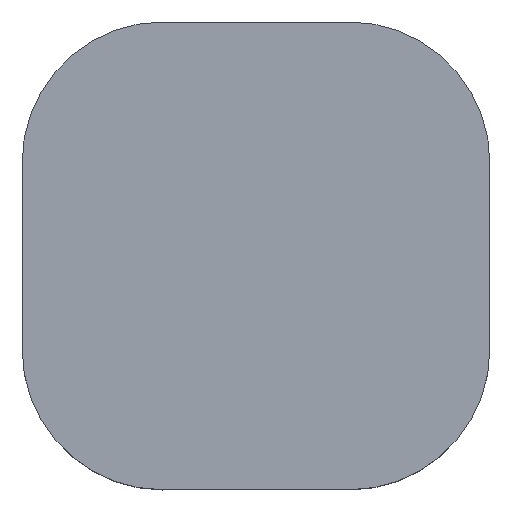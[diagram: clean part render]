
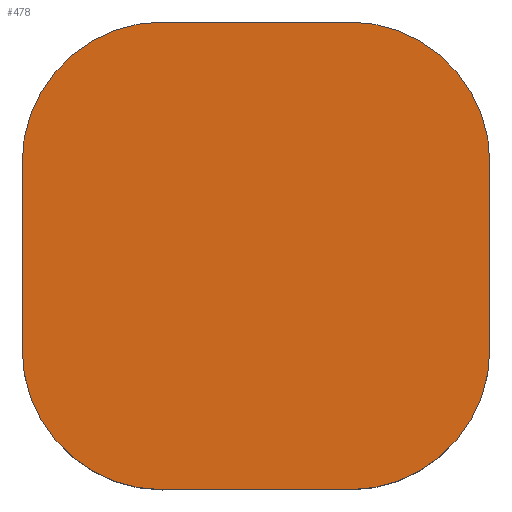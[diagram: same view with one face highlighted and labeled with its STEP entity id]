
A CAD part, top view. The second image highlights one B-rep face of the part: STEP entity #478.
In plain terms, the highlighted planar face has unit normal (0, 0, 1).
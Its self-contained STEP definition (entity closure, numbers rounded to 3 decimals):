
#42 = VERTEX_POINT('',#43);
#43 = CARTESIAN_POINT('',(-5.,-2.,12.8));
#50 = PLANE('',#51);
#51 = AXIS2_PLACEMENT_3D('',#52,#53,#54);
#52 = CARTESIAN_POINT('',(-5.,-2.,9.8));
#53 = DIRECTION('',(-1.,0.,0.));
#54 = DIRECTION('',(0.,1.,0.));
#62 = CYLINDRICAL_SURFACE('',#63,3.);
#63 = AXIS2_PLACEMENT_3D('',#64,#65,#66);
#64 = CARTESIAN_POINT('',(-2.,-2.,9.8));
#65 = DIRECTION('',(-0.,-0.,-1.));
#66 = DIRECTION('',(1.,0.,0.));
#74 = EDGE_CURVE('',#42,#75,#77,.T.);
#75 = VERTEX_POINT('',#76);
#76 = CARTESIAN_POINT('',(-5.,2.,12.8));
#77 = SURFACE_CURVE('',#78,(#82,#89),.PCURVE_S1.);
#78 = LINE('',#79,#80);
#79 = CARTESIAN_POINT('',(-5.,0.,12.8));
#80 = VECTOR('',#81,1.);
#81 = DIRECTION('',(0.,1.,0.));
#82 = PCURVE('',#50,#83);
#83 = DEFINITIONAL_REPRESENTATION('',(#84),#88);
#84 = LINE('',#85,#86);
#85 = CARTESIAN_POINT('',(2.,-3.));
#86 = VECTOR('',#87,1.);
#87 = DIRECTION('',(1.,0.));
#88 = ( GEOMETRIC_REPRESENTATION_CONTEXT(2) 
PARAMETRIC_REPRESENTATION_CONTEXT() REPRESENTATION_CONTEXT('2D SPACE',''
  ) );
#89 = PCURVE('',#90,#95);
#90 = PLANE('',#91);
#91 = AXIS2_PLACEMENT_3D('',#92,#93,#94);
#92 = CARTESIAN_POINT('',(0.,0.,12.8)
  );
#93 = DIRECTION('',(0.,0.,1.));
#94 = DIRECTION('',(1.,0.,-0.));
#95 = DEFINITIONAL_REPRESENTATION('',(#96),#100);
#96 = LINE('',#97,#98);
#97 = CARTESIAN_POINT('',(-5.,0.));
#98 = VECTOR('',#99,1.);
#99 = DIRECTION('',(0.,1.));
#100 = ( GEOMETRIC_REPRESENTATION_CONTEXT(2) 
PARAMETRIC_REPRESENTATION_CONTEXT() REPRESENTATION_CONTEXT('2D SPACE',''
  ) );
#118 = CYLINDRICAL_SURFACE('',#119,3.);
#119 = AXIS2_PLACEMENT_3D('',#120,#121,#122);
#120 = CARTESIAN_POINT('',(-2.,2.,9.8));
#121 = DIRECTION('',(-0.,-0.,-1.));
#122 = DIRECTION('',(1.,0.,0.));
#160 = EDGE_CURVE('',#42,#161,#163,.T.);
#161 = VERTEX_POINT('',#162);
#162 = CARTESIAN_POINT('',(-2.,-5.,12.8));
#163 = SURFACE_CURVE('',#164,(#169,#176),.PCURVE_S1.);
#164 = CIRCLE('',#165,3.);
#165 = AXIS2_PLACEMENT_3D('',#166,#167,#168);
#166 = CARTESIAN_POINT('',(-2.,-2.,12.8));
#167 = DIRECTION('',(0.,0.,1.));
#168 = DIRECTION('',(1.,0.,0.));
#169 = PCURVE('',#62,#170);
#170 = DEFINITIONAL_REPRESENTATION('',(#171),#175);
#171 = LINE('',#172,#173);
#172 = CARTESIAN_POINT('',(-0.,-3.));
#173 = VECTOR('',#174,1.);
#174 = DIRECTION('',(-1.,0.));
#175 = ( GEOMETRIC_REPRESENTATION_CONTEXT(2) 
PARAMETRIC_REPRESENTATION_CONTEXT() REPRESENTATION_CONTEXT('2D SPACE',''
  ) );
#176 = PCURVE('',#90,#177);
#177 = DEFINITIONAL_REPRESENTATION('',(#178),#182);
#178 = CIRCLE('',#179,3.);
#179 = AXIS2_PLACEMENT_2D('',#180,#181);
#180 = CARTESIAN_POINT('',(-2.,-2.));
#181 = DIRECTION('',(1.,0.));
#182 = ( GEOMETRIC_REPRESENTATION_CONTEXT(2) 
PARAMETRIC_REPRESENTATION_CONTEXT() REPRESENTATION_CONTEXT('2D SPACE',''
  ) );
#200 = PLANE('',#201);
#201 = AXIS2_PLACEMENT_3D('',#202,#203,#204);
#202 = CARTESIAN_POINT('',(-2.,-5.,9.8));
#203 = DIRECTION('',(0.,1.,0.));
#204 = DIRECTION('',(1.,0.,0.));
#240 = VERTEX_POINT('',#241);
#241 = CARTESIAN_POINT('',(-2.,5.,12.8));
#255 = PLANE('',#256);
#256 = AXIS2_PLACEMENT_3D('',#257,#258,#259);
#257 = CARTESIAN_POINT('',(-2.,5.,9.8));
#258 = DIRECTION('',(0.,1.,0.));
#259 = DIRECTION('',(1.,0.,0.));
#267 = EDGE_CURVE('',#240,#75,#268,.T.);
#268 = SURFACE_CURVE('',#269,(#274,#281),.PCURVE_S1.);
#269 = CIRCLE('',#270,3.);
#270 = AXIS2_PLACEMENT_3D('',#271,#272,#273);
#271 = CARTESIAN_POINT('',(-2.,2.,12.8));
#272 = DIRECTION('',(0.,0.,1.));
#273 = DIRECTION('',(1.,0.,0.));
#274 = PCURVE('',#118,#275);
#275 = DEFINITIONAL_REPRESENTATION('',(#276),#280);
#276 = LINE('',#277,#278);
#277 = CARTESIAN_POINT('',(-0.,-3.));
#278 = VECTOR('',#279,1.);
#279 = DIRECTION('',(-1.,0.));
#280 = ( GEOMETRIC_REPRESENTATION_CONTEXT(2) 
PARAMETRIC_REPRESENTATION_CONTEXT() REPRESENTATION_CONTEXT('2D SPACE',''
  ) );
#281 = PCURVE('',#90,#282);
#282 = DEFINITIONAL_REPRESENTATION('',(#283),#287);
#283 = CIRCLE('',#284,3.);
#284 = AXIS2_PLACEMENT_2D('',#285,#286);
#285 = CARTESIAN_POINT('',(-2.,2.));
#286 = DIRECTION('',(1.,0.));
#287 = ( GEOMETRIC_REPRESENTATION_CONTEXT(2) 
PARAMETRIC_REPRESENTATION_CONTEXT() REPRESENTATION_CONTEXT('2D SPACE',''
  ) );
#357 = CYLINDRICAL_SURFACE('',#358,3.);
#358 = AXIS2_PLACEMENT_3D('',#359,#360,#361);
#359 = CARTESIAN_POINT('',(2.,-2.,9.8));
#360 = DIRECTION('',(-0.,-0.,-1.));
#361 = DIRECTION('',(1.,0.,0.));
#385 = PLANE('',#386);
#386 = AXIS2_PLACEMENT_3D('',#387,#388,#389);
#387 = CARTESIAN_POINT('',(5.,-2.,9.8));
#388 = DIRECTION('',(-1.,0.,0.));
#389 = DIRECTION('',(0.,1.,0.));
#414 = CYLINDRICAL_SURFACE('',#415,3.);
#415 = AXIS2_PLACEMENT_3D('',#416,#417,#418);
#416 = CARTESIAN_POINT('',(2.,2.,9.8));
#417 = DIRECTION('',(-0.,-0.,-1.));
#418 = DIRECTION('',(1.,0.,0.));
#478 = ADVANCED_FACE('',(#479),#90,.T.);
#479 = FACE_BOUND('',#480,.T.);
#480 = EDGE_LOOP('',(#481,#482,#483,#506,#530,#553,#577,#598));
#481 = ORIENTED_EDGE('',*,*,#74,.F.);
#482 = ORIENTED_EDGE('',*,*,#160,.T.);
#483 = ORIENTED_EDGE('',*,*,#484,.T.);
#484 = EDGE_CURVE('',#161,#485,#487,.T.);
#485 = VERTEX_POINT('',#486);
#486 = CARTESIAN_POINT('',(2.,-5.,12.8));
#487 = SURFACE_CURVE('',#488,(#492,#499),.PCURVE_S1.);
#488 = LINE('',#489,#490);
#489 = CARTESIAN_POINT('',(0.,-5.,12.8));
#490 = VECTOR('',#491,1.);
#491 = DIRECTION('',(1.,0.,0.));
#492 = PCURVE('',#90,#493);
#493 = DEFINITIONAL_REPRESENTATION('',(#494),#498);
#494 = LINE('',#495,#496);
#495 = CARTESIAN_POINT('',(0.,-5.));
#496 = VECTOR('',#497,1.);
#497 = DIRECTION('',(1.,0.));
#498 = ( GEOMETRIC_REPRESENTATION_CONTEXT(2) 
PARAMETRIC_REPRESENTATION_CONTEXT() REPRESENTATION_CONTEXT('2D SPACE',''
  ) );
#499 = PCURVE('',#200,#500);
#500 = DEFINITIONAL_REPRESENTATION('',(#501),#505);
#501 = LINE('',#502,#503);
#502 = CARTESIAN_POINT('',(2.,-3.));
#503 = VECTOR('',#504,1.);
#504 = DIRECTION('',(1.,0.));
#505 = ( GEOMETRIC_REPRESENTATION_CONTEXT(2) 
PARAMETRIC_REPRESENTATION_CONTEXT() REPRESENTATION_CONTEXT('2D SPACE',''
  ) );
#506 = ORIENTED_EDGE('',*,*,#507,.T.);
#507 = EDGE_CURVE('',#485,#508,#510,.T.);
#508 = VERTEX_POINT('',#509);
#509 = CARTESIAN_POINT('',(5.,-2.,12.8));
#510 = SURFACE_CURVE('',#511,(#516,#523),.PCURVE_S1.);
#511 = CIRCLE('',#512,3.);
#512 = AXIS2_PLACEMENT_3D('',#513,#514,#515);
#513 = CARTESIAN_POINT('',(2.,-2.,12.8));
#514 = DIRECTION('',(0.,0.,1.));
#515 = DIRECTION('',(1.,0.,0.));
#516 = PCURVE('',#90,#517);
#517 = DEFINITIONAL_REPRESENTATION('',(#518),#522);
#518 = CIRCLE('',#519,3.);
#519 = AXIS2_PLACEMENT_2D('',#520,#521);
#520 = CARTESIAN_POINT('',(2.,-2.));
#521 = DIRECTION('',(1.,0.));
#522 = ( GEOMETRIC_REPRESENTATION_CONTEXT(2) 
PARAMETRIC_REPRESENTATION_CONTEXT() REPRESENTATION_CONTEXT('2D SPACE',''
  ) );
#523 = PCURVE('',#357,#524);
#524 = DEFINITIONAL_REPRESENTATION('',(#525),#529);
#525 = LINE('',#526,#527);
#526 = CARTESIAN_POINT('',(-0.,-3.));
#527 = VECTOR('',#528,1.);
#528 = DIRECTION('',(-1.,0.));
#529 = ( GEOMETRIC_REPRESENTATION_CONTEXT(2) 
PARAMETRIC_REPRESENTATION_CONTEXT() REPRESENTATION_CONTEXT('2D SPACE',''
  ) );
#530 = ORIENTED_EDGE('',*,*,#531,.T.);
#531 = EDGE_CURVE('',#508,#532,#534,.T.);
#532 = VERTEX_POINT('',#533);
#533 = CARTESIAN_POINT('',(5.,2.,12.8));
#534 = SURFACE_CURVE('',#535,(#539,#546),.PCURVE_S1.);
#535 = LINE('',#536,#537);
#536 = CARTESIAN_POINT('',(5.,0.,12.8));
#537 = VECTOR('',#538,1.);
#538 = DIRECTION('',(0.,1.,0.));
#539 = PCURVE('',#90,#540);
#540 = DEFINITIONAL_REPRESENTATION('',(#541),#545);
#541 = LINE('',#542,#543);
#542 = CARTESIAN_POINT('',(5.,0.));
#543 = VECTOR('',#544,1.);
#544 = DIRECTION('',(0.,1.));
#545 = ( GEOMETRIC_REPRESENTATION_CONTEXT(2) 
PARAMETRIC_REPRESENTATION_CONTEXT() REPRESENTATION_CONTEXT('2D SPACE',''
  ) );
#546 = PCURVE('',#385,#547);
#547 = DEFINITIONAL_REPRESENTATION('',(#548),#552);
#548 = LINE('',#549,#550);
#549 = CARTESIAN_POINT('',(2.,-3.));
#550 = VECTOR('',#551,1.);
#551 = DIRECTION('',(1.,0.));
#552 = ( GEOMETRIC_REPRESENTATION_CONTEXT(2) 
PARAMETRIC_REPRESENTATION_CONTEXT() REPRESENTATION_CONTEXT('2D SPACE',''
  ) );
#553 = ORIENTED_EDGE('',*,*,#554,.T.);
#554 = EDGE_CURVE('',#532,#555,#557,.T.);
#555 = VERTEX_POINT('',#556);
#556 = CARTESIAN_POINT('',(2.,5.,12.8));
#557 = SURFACE_CURVE('',#558,(#563,#570),.PCURVE_S1.);
#558 = CIRCLE('',#559,3.);
#559 = AXIS2_PLACEMENT_3D('',#560,#561,#562);
#560 = CARTESIAN_POINT('',(2.,2.,12.8));
#561 = DIRECTION('',(0.,0.,1.));
#562 = DIRECTION('',(1.,0.,0.));
#563 = PCURVE('',#90,#564);
#564 = DEFINITIONAL_REPRESENTATION('',(#565),#569);
#565 = CIRCLE('',#566,3.);
#566 = AXIS2_PLACEMENT_2D('',#567,#568);
#567 = CARTESIAN_POINT('',(2.,2.));
#568 = DIRECTION('',(1.,0.));
#569 = ( GEOMETRIC_REPRESENTATION_CONTEXT(2) 
PARAMETRIC_REPRESENTATION_CONTEXT() REPRESENTATION_CONTEXT('2D SPACE',''
  ) );
#570 = PCURVE('',#414,#571);
#571 = DEFINITIONAL_REPRESENTATION('',(#572),#576);
#572 = LINE('',#573,#574);
#573 = CARTESIAN_POINT('',(-0.,-3.));
#574 = VECTOR('',#575,1.);
#575 = DIRECTION('',(-1.,0.));
#576 = ( GEOMETRIC_REPRESENTATION_CONTEXT(2) 
PARAMETRIC_REPRESENTATION_CONTEXT() REPRESENTATION_CONTEXT('2D SPACE',''
  ) );
#577 = ORIENTED_EDGE('',*,*,#578,.F.);
#578 = EDGE_CURVE('',#240,#555,#579,.T.);
#579 = SURFACE_CURVE('',#580,(#584,#591),.PCURVE_S1.);
#580 = LINE('',#581,#582);
#581 = CARTESIAN_POINT('',(0.,5.,12.8));
#582 = VECTOR('',#583,1.);
#583 = DIRECTION('',(1.,0.,0.));
#584 = PCURVE('',#90,#585);
#585 = DEFINITIONAL_REPRESENTATION('',(#586),#590);
#586 = LINE('',#587,#588);
#587 = CARTESIAN_POINT('',(0.,5.));
#588 = VECTOR('',#589,1.);
#589 = DIRECTION('',(1.,0.));
#590 = ( GEOMETRIC_REPRESENTATION_CONTEXT(2) 
PARAMETRIC_REPRESENTATION_CONTEXT() REPRESENTATION_CONTEXT('2D SPACE',''
  ) );
#591 = PCURVE('',#255,#592);
#592 = DEFINITIONAL_REPRESENTATION('',(#593),#597);
#593 = LINE('',#594,#595);
#594 = CARTESIAN_POINT('',(2.,-3.));
#595 = VECTOR('',#596,1.);
#596 = DIRECTION('',(1.,0.));
#597 = ( GEOMETRIC_REPRESENTATION_CONTEXT(2) 
PARAMETRIC_REPRESENTATION_CONTEXT() REPRESENTATION_CONTEXT('2D SPACE',''
  ) );
#598 = ORIENTED_EDGE('',*,*,#267,.T.);
